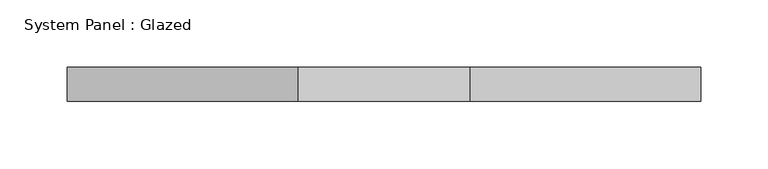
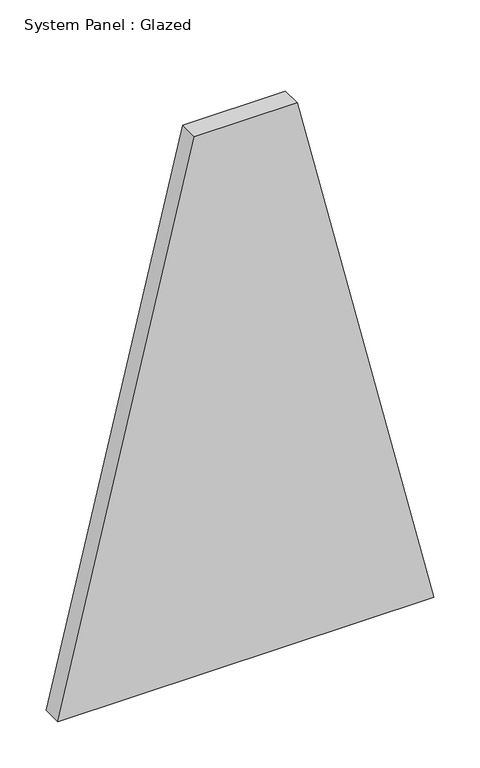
"""IFC4 building model written with IfcOpenShell, lengths in millimetres: plate geometry, System Panel : Glazed."""

from ifc_helpers import new_model, si_unit, frame, origin, place, context, project, spatial, polyline, outline, extrude, source, transform, mapped, element, save


def system_panel_glazed_6841621f(model_context):
    return source(origin(), model_context, "Body", "SweptSolid", [
        extrude(outline(polyline([(0.0, -235.7757896), (0.0, 235.7757896), (715.6332353, 64.3394765), (715.6332353, -64.3394765), (0.0, -235.7757896)])), frame((0.0, -44.45, 0.0), z_axis=(0.0, 1.0, 0.0), x_axis=(0.0, 0.0, 1.0)), (0.0, 0.0, 1.0), 25.4),
    ])


if __name__ == "__main__":
    model = new_model("IFC4")
    model_context = context("Model", 3, world=origin())
    ifc_project = project(units=[si_unit("LENGTHUNIT", "METRE", prefix="MILLI")], contexts=[model_context])
    site = spatial("IfcSite", under=ifc_project)
    building = spatial("IfcBuilding", under=site)
    placement = place(None, origin())
    system_panel_glazed_shape = system_panel_glazed_6841621f(model_context)
    element("IfcPlate", 1, ObjectType="System Panel : Glazed", at=placement, inside=building, context=model_context, shape_type="MappedRepresentation", body=[
        mapped(system_panel_glazed_shape, transform((0.0, 0.0, 0.0), x_axis=(1.0, 0.0, 0.0), y_axis=(0.0, 1.0, 0.0), z_axis=(0.0, 0.0, 1.0))),
    ])
    save(model, "model.ifc")
